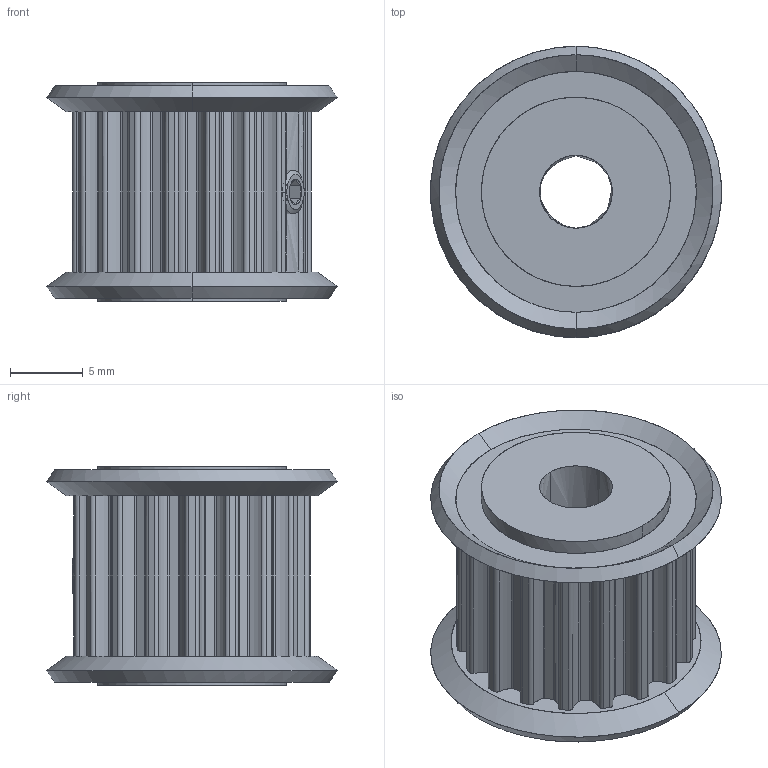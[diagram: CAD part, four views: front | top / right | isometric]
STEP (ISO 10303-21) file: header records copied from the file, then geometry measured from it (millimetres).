
FILE_DESCRIPTION(/* description */ (''),/* implementation_level */ '2;1');
FILE_NAME(/* name */ 'X-162A~1',/* time_stamp */ '2014-02-14T19:45:46+01:00',/* author */ (''),/* organization */ (''),/* preprocessor_version */ 'ST-DEVELOPER v14',/* originating_system */ '',/* authorisation */ '');
FILE_SCHEMA (('AUTOMOTIVE_DESIGN'));
Length unit declared in the file: millimetre
Products named in the file (2): Document; pulley GPA18GT3090-A-P5
Assembly tree (1 placements, depth 2):
  Document
    pulley GPA18GT3090-A-P5
Bounding box: 19.97 x 20 x 15 mm (x, y, z)
Surface area: 1813.1 mm2 (no closed solid volume)
Topology: 0 solids, 232 shells, 232 faces, 853 edges, 853 vertices
Faces by surface type: bspline 208, plane 24
Entity records: 21311 total; most frequent: CARTESIAN_POINT 11542, B_SPLINE_CURVE_WITH_KNOTS 1266, ORIENTED_EDGE 853, PCURVE 853, DEFINITIONAL_REPRESENTATION 853, SURFACE_CURVE 853, EDGE_CURVE 853, VERTEX_POINT 853
